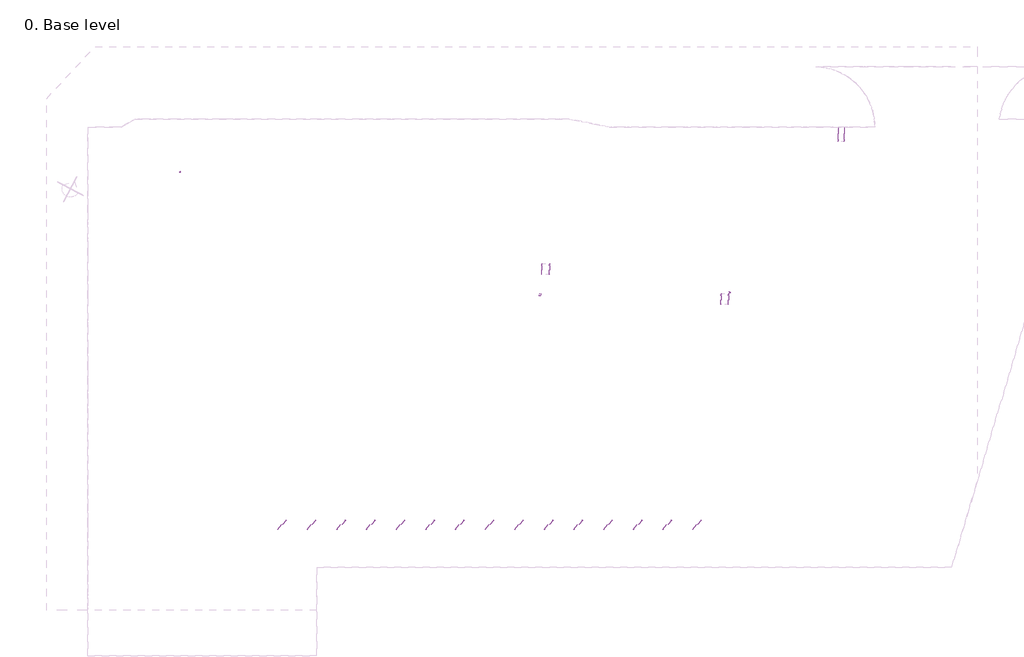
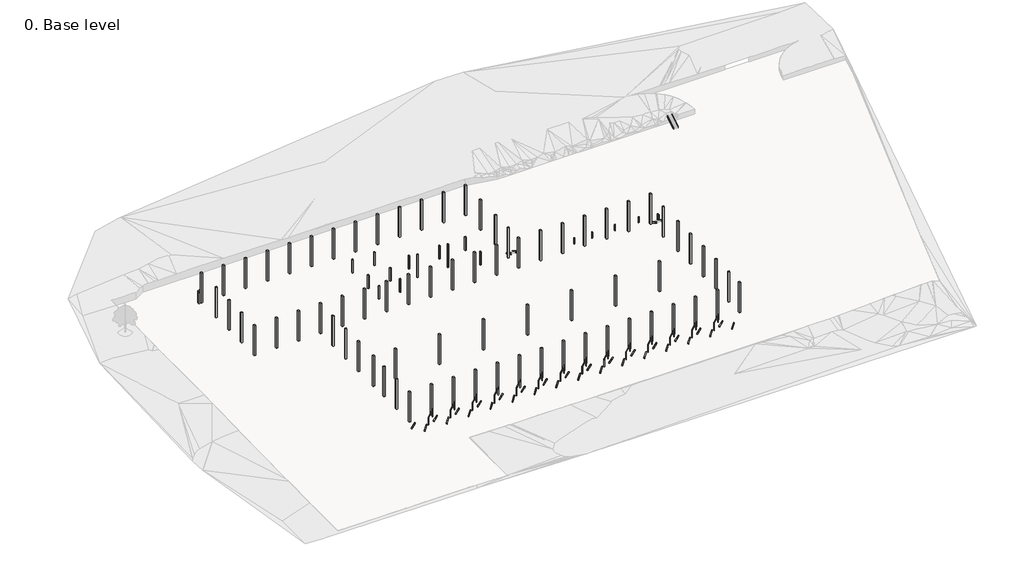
# One storey, part 3 of 3: 18 proxies, 6 members.
"""IFC4 building model written with IfcOpenShell, lengths in millimetres."""

from ifc_helpers import new_model, si_unit, frame, origin, place, context, project, spatial, polyline, outline, extrude, transform, mapped, element, save
from components import generic_models_21_generic_models_7_8d2ae4a9, generic_models_44_generic_models_44_459d3b0d, generic_models_45_generic_models_44_6d9f344f, generic_models_46_generic_models_44_85f426d3, generic_models_47_generic_models_44_49a0970a, generic_models_48_generic_models_44_31df5928, generic_models_49_generic_models_44_38f5dda0, generic_models_50_generic_models_44_a277baf7, generic_models_51_generic_models_44_150fb150, generic_models_52_generic_models_44_28ae5a0a, generic_models_53_generic_models_44_99a5b5ee, generic_models_54_generic_models_44_10a6506e, generic_models_55_generic_models_44_996fc1ee, generic_models_56_generic_models_44_0c6a0674, generic_models_57_generic_models_44_fe493b06, generic_models_58_generic_models_44_b7fe4dcd, generic_models_59_generic_models_44_6771ed51, generic_models_60_generic_models_44_28677a19

model = new_model("IFC4")

# Units and contexts
model_context = context("Model", 3, world=origin())
ifc_project = project(units=[si_unit("LENGTHUNIT", "METRE", prefix="MILLI")], contexts=[model_context])

# Site, building, storey
site = spatial("IfcSite", under=ifc_project)
building = spatial("IfcBuilding", under=site)
storey = spatial("IfcBuildingStorey", under=building, Name="0. Base level", Elevation=0.0)

# Proxies
placement = place(None, origin())
generic_models_21_generic_models_7_shape = generic_models_21_generic_models_7_8d2ae4a9(model_context)
element("IfcBuildingElementProxy", 1, Name="Generic Models 21 : Generic Models 7", ObjectType="Generic Models 21 : Generic Models 7", at=placement, inside=storey, context=model_context, shape_type="MappedRepresentation", body=[
    mapped(generic_models_21_generic_models_7_shape, transform((0.0, 0.0, 0.0), x_axis=(1.0, 0.0, 0.0), y_axis=(0.0, 1.0, 0.0), z_axis=(0.0, 0.0, 1.0))),
])
generic_models_44_generic_models_44_shape = generic_models_44_generic_models_44_459d3b0d(model_context)
element("IfcBuildingElementProxy", 2, Name="Generic Models 44 : Generic Models 44", ObjectType="Generic Models 44 : Generic Models 44", at=placement, inside=storey, context=model_context, shape_type="MappedRepresentation", body=[
    mapped(generic_models_44_generic_models_44_shape, transform((0.0, 0.0, 0.0), x_axis=(1.0, 0.0, 0.0), y_axis=(0.0, 1.0, 0.0), z_axis=(0.0, 0.0, 1.0))),
])
generic_models_45_generic_models_44_shape = generic_models_45_generic_models_44_6d9f344f(model_context)
element("IfcBuildingElementProxy", 3, Name="Generic Models 45 : Generic Models 44", ObjectType="Generic Models 45 : Generic Models 44", at=placement, inside=storey, context=model_context, shape_type="MappedRepresentation", body=[
    mapped(generic_models_45_generic_models_44_shape, transform((0.0, 0.0, 0.0), x_axis=(1.0, 0.0, 0.0), y_axis=(0.0, 1.0, 0.0), z_axis=(0.0, 0.0, 1.0))),
])
generic_models_46_generic_models_44_shape = generic_models_46_generic_models_44_85f426d3(model_context)
element("IfcBuildingElementProxy", 4, Name="Generic Models 46 : Generic Models 44", ObjectType="Generic Models 46 : Generic Models 44", at=placement, inside=storey, context=model_context, shape_type="MappedRepresentation", body=[
    mapped(generic_models_46_generic_models_44_shape, transform((0.0, 0.0, 0.0), x_axis=(1.0, 0.0, 0.0), y_axis=(0.0, 1.0, 0.0), z_axis=(0.0, 0.0, 1.0))),
])
generic_models_47_generic_models_44_shape = generic_models_47_generic_models_44_49a0970a(model_context)
element("IfcBuildingElementProxy", 5, Name="Generic Models 47 : Generic Models 44", ObjectType="Generic Models 47 : Generic Models 44", at=placement, inside=storey, context=model_context, shape_type="MappedRepresentation", body=[
    mapped(generic_models_47_generic_models_44_shape, transform((0.0, 0.0, 0.0), x_axis=(1.0, 0.0, 0.0), y_axis=(0.0, 1.0, 0.0), z_axis=(0.0, 0.0, 1.0))),
])
generic_models_48_generic_models_44_shape = generic_models_48_generic_models_44_31df5928(model_context)
element("IfcBuildingElementProxy", 6, Name="Generic Models 48 : Generic Models 44", ObjectType="Generic Models 48 : Generic Models 44", at=placement, inside=storey, context=model_context, shape_type="MappedRepresentation", body=[
    mapped(generic_models_48_generic_models_44_shape, transform((0.0, 0.0, 0.0), x_axis=(1.0, 0.0, 0.0), y_axis=(0.0, 1.0, 0.0), z_axis=(0.0, 0.0, 1.0))),
])
generic_models_49_generic_models_44_shape = generic_models_49_generic_models_44_38f5dda0(model_context)
element("IfcBuildingElementProxy", 7, Name="Generic Models 49 : Generic Models 44", ObjectType="Generic Models 49 : Generic Models 44", at=placement, inside=storey, context=model_context, shape_type="MappedRepresentation", body=[
    mapped(generic_models_49_generic_models_44_shape, transform((0.0, 0.0, 0.0), x_axis=(1.0, 0.0, 0.0), y_axis=(0.0, 1.0, 0.0), z_axis=(0.0, 0.0, 1.0))),
])
generic_models_50_generic_models_44_shape = generic_models_50_generic_models_44_a277baf7(model_context)
element("IfcBuildingElementProxy", 8, Name="Generic Models 50 : Generic Models 44", ObjectType="Generic Models 50 : Generic Models 44", at=placement, inside=storey, context=model_context, shape_type="MappedRepresentation", body=[
    mapped(generic_models_50_generic_models_44_shape, transform((0.0, 0.0, 0.0), x_axis=(1.0, 0.0, 0.0), y_axis=(0.0, 1.0, 0.0), z_axis=(0.0, 0.0, 1.0))),
])
generic_models_51_generic_models_44_shape = generic_models_51_generic_models_44_150fb150(model_context)
element("IfcBuildingElementProxy", 9, Name="Generic Models 51 : Generic Models 44", ObjectType="Generic Models 51 : Generic Models 44", at=placement, inside=storey, context=model_context, shape_type="MappedRepresentation", body=[
    mapped(generic_models_51_generic_models_44_shape, transform((0.0, 0.0, 0.0), x_axis=(1.0, 0.0, 0.0), y_axis=(0.0, 1.0, 0.0), z_axis=(0.0, 0.0, 1.0))),
])
generic_models_52_generic_models_44_shape = generic_models_52_generic_models_44_28ae5a0a(model_context)
element("IfcBuildingElementProxy", 10, Name="Generic Models 52 : Generic Models 44", ObjectType="Generic Models 52 : Generic Models 44", at=placement, inside=storey, context=model_context, shape_type="MappedRepresentation", body=[
    mapped(generic_models_52_generic_models_44_shape, transform((0.0, 0.0, 0.0), x_axis=(1.0, 0.0, 0.0), y_axis=(0.0, 1.0, 0.0), z_axis=(0.0, 0.0, 1.0))),
])
generic_models_53_generic_models_44_shape = generic_models_53_generic_models_44_99a5b5ee(model_context)
element("IfcBuildingElementProxy", 11, Name="Generic Models 53 : Generic Models 44", ObjectType="Generic Models 53 : Generic Models 44", at=placement, inside=storey, context=model_context, shape_type="MappedRepresentation", body=[
    mapped(generic_models_53_generic_models_44_shape, transform((0.0, 0.0, 0.0), x_axis=(1.0, 0.0, 0.0), y_axis=(0.0, 1.0, 0.0), z_axis=(0.0, 0.0, 1.0))),
])
generic_models_54_generic_models_44_shape = generic_models_54_generic_models_44_10a6506e(model_context)
element("IfcBuildingElementProxy", 12, Name="Generic Models 54 : Generic Models 44", ObjectType="Generic Models 54 : Generic Models 44", at=placement, inside=storey, context=model_context, shape_type="MappedRepresentation", body=[
    mapped(generic_models_54_generic_models_44_shape, transform((0.0, 0.0, 0.0), x_axis=(1.0, 0.0, 0.0), y_axis=(0.0, 1.0, 0.0), z_axis=(0.0, 0.0, 1.0))),
])
generic_models_55_generic_models_44_shape = generic_models_55_generic_models_44_996fc1ee(model_context)
element("IfcBuildingElementProxy", 13, Name="Generic Models 55 : Generic Models 44", ObjectType="Generic Models 55 : Generic Models 44", at=placement, inside=storey, context=model_context, shape_type="MappedRepresentation", body=[
    mapped(generic_models_55_generic_models_44_shape, transform((0.0, 0.0, 0.0), x_axis=(1.0, 0.0, 0.0), y_axis=(0.0, 1.0, 0.0), z_axis=(0.0, 0.0, 1.0))),
])
generic_models_56_generic_models_44_shape = generic_models_56_generic_models_44_0c6a0674(model_context)
element("IfcBuildingElementProxy", 14, Name="Generic Models 56 : Generic Models 44", ObjectType="Generic Models 56 : Generic Models 44", at=placement, inside=storey, context=model_context, shape_type="MappedRepresentation", body=[
    mapped(generic_models_56_generic_models_44_shape, transform((0.0, 0.0, 0.0), x_axis=(1.0, 0.0, 0.0), y_axis=(0.0, 1.0, 0.0), z_axis=(0.0, 0.0, 1.0))),
])
generic_models_57_generic_models_44_shape = generic_models_57_generic_models_44_fe493b06(model_context)
element("IfcBuildingElementProxy", 15, Name="Generic Models 57 : Generic Models 44", ObjectType="Generic Models 57 : Generic Models 44", at=placement, inside=storey, context=model_context, shape_type="MappedRepresentation", body=[
    mapped(generic_models_57_generic_models_44_shape, transform((0.0, 0.0, 0.0), x_axis=(1.0, 0.0, 0.0), y_axis=(0.0, 1.0, 0.0), z_axis=(0.0, 0.0, 1.0))),
])
generic_models_58_generic_models_44_shape = generic_models_58_generic_models_44_b7fe4dcd(model_context)
element("IfcBuildingElementProxy", 16, Name="Generic Models 58 : Generic Models 44", ObjectType="Generic Models 58 : Generic Models 44", at=placement, inside=storey, context=model_context, shape_type="MappedRepresentation", body=[
    mapped(generic_models_58_generic_models_44_shape, transform((0.0, 0.0, 0.0), x_axis=(1.0, 0.0, 0.0), y_axis=(0.0, 1.0, 0.0), z_axis=(0.0, 0.0, 1.0))),
])
generic_models_59_generic_models_44_shape = generic_models_59_generic_models_44_6771ed51(model_context)
element("IfcBuildingElementProxy", 17, Name="Generic Models 59 : Generic Models 44", ObjectType="Generic Models 59 : Generic Models 44", at=placement, inside=storey, context=model_context, shape_type="MappedRepresentation", body=[
    mapped(generic_models_59_generic_models_44_shape, transform((0.0, 0.0, 0.0), x_axis=(1.0, 0.0, 0.0), y_axis=(0.0, 1.0, 0.0), z_axis=(0.0, 0.0, 1.0))),
])
generic_models_60_generic_models_44_shape = generic_models_60_generic_models_44_28677a19(model_context)
element("IfcBuildingElementProxy", 18, Name="Generic Models 60 : Generic Models 44", ObjectType="Generic Models 60 : Generic Models 44", at=placement, inside=storey, context=model_context, shape_type="MappedRepresentation", body=[
    mapped(generic_models_60_generic_models_44_shape, transform((0.0, 0.0, 0.0), x_axis=(1.0, 0.0, 0.0), y_axis=(0.0, 1.0, 0.0), z_axis=(0.0, 0.0, 1.0))),
])

# Members
element("IfcMember", 19, ObjectType="Stringer - 50mm Width", at=placement, inside=storey, context=model_context, shape_type="SweptSolid", body=[
    extrude(outline(polyline([(11977.1808322, 43001.3212864), (11977.1808322, 42770.0), (11577.4190925, 42770.0), (9817.1808322, 43784.1290389), (9817.1808322, 44245.7657308), (11977.1808322, 43001.3212864)])), frame((-43049.0423298, 0.0, 0.0), z_axis=(1.0, 0.0, 0.0), x_axis=(0.0, 1.0, 0.0)), (0.0, 0.0, 1.0), 50.0),
])
element("IfcMember", 20, ObjectType="Stringer - 50mm Width", at=placement, inside=storey, context=model_context, shape_type="SweptSolid", body=[
    extrude(outline(polyline([(11977.1808322, 43001.3212864), (11977.1808322, 42770.0), (11577.4190925, 42770.0), (9817.1808322, 43784.1290389), (9817.1808322, 44245.7657308), (11977.1808322, 43001.3212864)])), frame((-44599.0423298, 0.0, 0.0), z_axis=(1.0, 0.0, 0.0), x_axis=(0.0, 1.0, 0.0)), (0.0, 0.0, 1.0), 50.0),
])
element("IfcMember", 21, ObjectType="Stringer - 50mm Width", at=placement, inside=storey, context=model_context, shape_type="SweptSolid", body=[
    extrude(outline(polyline([(18017.4703267, 43001.3212864), (18017.4703267, 42770.0), (17617.708587, 42770.0), (15857.4703267, 43784.1290389), (15857.4703267, 44245.7657308), (18017.4703267, 43001.3212864)])), frame((-79205.6913038, 0.0, 0.0), z_axis=(1.0, 0.0, 0.0), x_axis=(0.0, 1.0, 0.0)), (0.0, 0.0, 1.0), 50.0),
])
element("IfcMember", 22, ObjectType="Stringer - 50mm Width", at=placement, inside=storey, context=model_context, shape_type="SweptSolid", body=[
    extrude(outline(polyline([(18017.4703267, 43001.3212864), (18017.4703267, 42770.0), (17617.708587, 42770.0), (15857.4703267, 43784.1290389), (15857.4703267, 44245.7657308), (18017.4703267, 43001.3212864)])), frame((-80755.6913038, 0.0, 0.0), z_axis=(1.0, 0.0, 0.0), x_axis=(0.0, 1.0, 0.0)), (0.0, 0.0, 1.0), 50.0),
])
element("IfcMember", 23, ObjectType="Stringer - 50mm Width", at=placement, inside=storey, context=model_context, shape_type="SweptSolid", body=[
    extrude(outline(polyline([(42669.4991708, 42720.0), (42669.4991708, 42956.0780405), (45639.4991708, 44789.4113738), (45639.4991708, 44319.34083), (43048.5670261, 42720.0), (42669.4991708, 42720.0)])), frame((-20919.5693283, 0.0, 0.0), z_axis=(1.0, 0.0, 0.0), x_axis=(0.0, 1.0, 0.0)), (0.0, 0.0, 1.0), 50.0),
])
element("IfcMember", 24, ObjectType="Stringer - 50mm Width", at=placement, inside=storey, context=model_context, shape_type="SweptSolid", body=[
    extrude(outline(polyline([(42669.4991708, 42720.0), (42669.4991708, 42956.0780405), (45639.4991708, 44789.4113738), (45639.4991708, 44319.34083), (43048.5670261, 42720.0), (42669.4991708, 42720.0)])), frame((-19669.5693283, 0.0, 0.0), z_axis=(1.0, 0.0, 0.0), x_axis=(0.0, 1.0, 0.0)), (0.0, 0.0, 1.0), 50.0),
])

save(model, "model.ifc")
